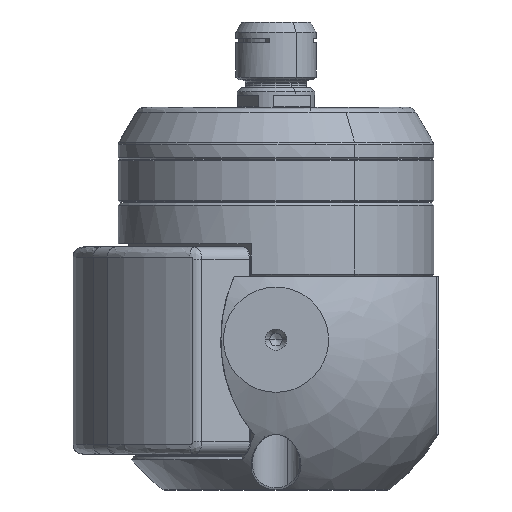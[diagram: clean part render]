
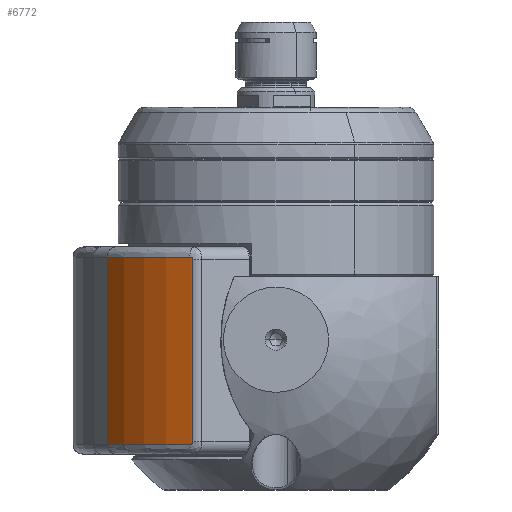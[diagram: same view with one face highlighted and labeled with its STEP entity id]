
A CAD part, front view. The second image highlights one B-rep face of the part: STEP entity #6772.
In plain terms, the highlighted cylindrical face has radius 40 mm (diameter 80 mm), a partial arc.
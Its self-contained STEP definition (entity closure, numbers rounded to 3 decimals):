
#40 = EDGE_CURVE ( 'NONE', #7316, #5445, #2606, .T. ) ;
#86 = CARTESIAN_POINT ( 'NONE',  ( -16.593, 0.572, -20.437 ) ) ;
#165 = CARTESIAN_POINT ( 'NONE',  ( -17.046, 0.773, -20.889 ) ) ;
#484 = VERTEX_POINT ( 'NONE', #3735 ) ;
#499 = CARTESIAN_POINT ( 'NONE',  ( -16.782, 0.655, 16.366 ) ) ;
#768 = DIRECTION ( 'NONE',  ( -0.5, 0.866, 0. ) ) ;
#998 = ORIENTED_EDGE ( 'NONE', *, *, #7344, .F. ) ;
#1040 = CARTESIAN_POINT ( 'NONE',  ( -33.661, 14.802, 16.5 ) ) ;
#1046 = AXIS2_PLACEMENT_3D ( 'NONE', #2505, #1267, #768 ) ;
#1081 = CARTESIAN_POINT ( 'NONE',  ( -17.116, 0.805, 16.5 ) ) ;
#1119 = CARTESIAN_POINT ( 'NONE',  ( -16.95, 0.73, 16.459 ) ) ;
#1243 = ORIENTED_EDGE ( 'NONE', *, *, #6892, .T. ) ;
#1267 = DIRECTION ( 'NONE',  ( 0., 0., 1. ) ) ;
#1412 = CIRCLE ( 'NONE', #1046, 40. ) ;
#1459 = CARTESIAN_POINT ( 'NONE',  ( -17.186, 0.837, 16.5 ) ) ;
#1491 = CARTESIAN_POINT ( 'NONE',  ( -33.661, 14.802, 18.5 ) ) ;
#1714 = CARTESIAN_POINT ( 'NONE',  ( -16.669, 0.605, 16.246 ) ) ;
#1778 = CARTESIAN_POINT ( 'NONE',  ( -16.593, 0.572, -20.4 ) ) ;
#1890 = EDGE_LOOP ( 'NONE', ( #6115, #998, #6142, #1243, #7551, #4235 ) ) ;
#2273 = CARTESIAN_POINT ( 'NONE',  ( -16.593, 0.572, 16. ) ) ;
#2505 = CARTESIAN_POINT ( 'NONE',  ( -0.52, 37.2, -20.9 ) ) ;
#2606 = LINE ( 'NONE', #1491, #5000 ) ;
#2817 = CARTESIAN_POINT ( 'NONE',  ( -16.594, 0.572, 16.038 ) ) ;
#2892 = CARTESIAN_POINT ( 'NONE',  ( -16.766, 0.648, 16.353 ) ) ;
#2917 = CARTESIAN_POINT ( 'NONE',  ( -16.631, 0.588, -20.578 ) ) ;
#2939 = FACE_OUTER_BOUND ( 'NONE', #1890, .T. ) ;
#2966 = CARTESIAN_POINT ( 'NONE',  ( -16.601, 0.575, 16.094 ) ) ;
#2987 = EDGE_CURVE ( 'NONE', #484, #3607, #4072, .T. ) ;
#3046 = VECTOR ( 'NONE', #5284, 1000. ) ;
#3111 = CARTESIAN_POINT ( 'NONE',  ( -17.186, 0.837, -20.9 ) ) ;
#3179 = AXIS2_PLACEMENT_3D ( 'NONE', #6629, #3744, #6095 ) ;
#3523 = CARTESIAN_POINT ( 'NONE',  ( -17.186, 0.837, 16.5 ) ) ;
#3607 = VERTEX_POINT ( 'NONE', #6062 ) ;
#3717 = VERTEX_POINT ( 'NONE', #1459 ) ;
#3735 = CARTESIAN_POINT ( 'NONE',  ( -16.593, 0.572, 16. ) ) ;
#3744 = DIRECTION ( 'NONE',  ( 0., 0., 1. ) ) ;
#3799 = EDGE_CURVE ( 'NONE', #3607, #6037, #7179, .T. ) ;
#3975 = DIRECTION ( 'NONE',  ( 0., 0., -1. ) ) ;
#4072 = LINE ( 'NONE', #5878, #3046 ) ;
#4100 = CARTESIAN_POINT ( 'NONE',  ( -16.643, 0.593, 16.2 ) ) ;
#4108 = CARTESIAN_POINT ( 'NONE',  ( -0.52, 37.2, 18.5 ) ) ;
#4137 = CARTESIAN_POINT ( 'NONE',  ( -16.739, 0.636, 16.328 ) ) ;
#4147 = CYLINDRICAL_SURFACE ( 'NONE', #5923, 40. ) ;
#4171 = CARTESIAN_POINT ( 'NONE',  ( -16.847, 0.684, -20.815 ) ) ;
#4235 = ORIENTED_EDGE ( 'NONE', *, *, #2987, .F. ) ;
#4361 = CARTESIAN_POINT ( 'NONE',  ( -33.661, 14.802, -20.9 ) ) ;
#4729 = CARTESIAN_POINT ( 'NONE',  ( -16.687, 0.613, -20.671 ) ) ;
#4769 = CARTESIAN_POINT ( 'NONE',  ( -16.701, 0.619, 16.289 ) ) ;
#5000 = VECTOR ( 'NONE', #3975, 1000. ) ;
#5245 = DIRECTION ( 'NONE',  ( -0.5, 0.866, 0. ) ) ;
#5247 = B_SPLINE_CURVE_WITH_KNOTS ( 'NONE', 3,
 ( #2273, #2817, #2966, #5870, #7686, #4100, #1714, #4769, #4137, #2892, #499, #7024, #6519, #7570, #1119, #7066, #1081, #3523 ),
 .UNSPECIFIED., .F., .F.,
 ( 4, 1, 2, 2, 1, 2, 2, 2, 2, 4 ),
 ( 0., 0.125, 0.188, 0.25, 0.375, 0.438, 0.5, 0.625, 0.75, 1. ),
 .UNSPECIFIED. ) ;
#5284 = DIRECTION ( 'NONE',  ( 0., 0., -1. ) ) ;
#5309 = CARTESIAN_POINT ( 'NONE',  ( -16.666, 0.604, -20.641 ) ) ;
#5346 = CARTESIAN_POINT ( 'NONE',  ( -16.761, 0.646, -20.749 ) ) ;
#5445 = VERTEX_POINT ( 'NONE', #4361 ) ;
#5870 = CARTESIAN_POINT ( 'NONE',  ( -16.619, 0.583, 16.147 ) ) ;
#5878 = CARTESIAN_POINT ( 'NONE',  ( -16.593, 0.572, 18.5 ) ) ;
#5898 = CARTESIAN_POINT ( 'NONE',  ( -16.617, 0.582, -20.544 ) ) ;
#5923 = AXIS2_PLACEMENT_3D ( 'NONE', #4108, #6488, #5245 ) ;
#5936 = CARTESIAN_POINT ( 'NONE',  ( -16.735, 0.634, -20.725 ) ) ;
#6037 = VERTEX_POINT ( 'NONE', #6364 ) ;
#6062 = CARTESIAN_POINT ( 'NONE',  ( -16.593, 0.572, -20.4 ) ) ;
#6095 = DIRECTION ( 'NONE',  ( 0.866, 0.5, 0. ) ) ;
#6115 = ORIENTED_EDGE ( 'NONE', *, *, #7218, .T. ) ;
#6142 = ORIENTED_EDGE ( 'NONE', *, *, #40, .T. ) ;
#6364 = CARTESIAN_POINT ( 'NONE',  ( -17.186, 0.837, -20.9 ) ) ;
#6475 = CARTESIAN_POINT ( 'NONE',  ( -16.598, 0.574, -20.473 ) ) ;
#6488 = DIRECTION ( 'NONE',  ( 0., 0., -1. ) ) ;
#6519 = CARTESIAN_POINT ( 'NONE',  ( -16.853, 0.687, 16.414 ) ) ;
#6542 = CIRCLE ( 'NONE', #3179, 40. ) ;
#6552 = CARTESIAN_POINT ( 'NONE',  ( -16.911, 0.713, -20.847 ) ) ;
#6629 = CARTESIAN_POINT ( 'NONE',  ( -0.52, 37.2, 16.5 ) ) ;
#6772 = ADVANCED_FACE ( 'NONE', ( #2939 ), #4147, .T. ) ;
#6892 = EDGE_CURVE ( 'NONE', #5445, #6037, #1412, .T. ) ;
#7024 = CARTESIAN_POINT ( 'NONE',  ( -16.824, 0.674, 16.396 ) ) ;
#7066 = CARTESIAN_POINT ( 'NONE',  ( -17.048, 0.775, 16.49 ) ) ;
#7179 = B_SPLINE_CURVE_WITH_KNOTS ( 'NONE', 3,
 ( #1778, #86, #6475, #5898, #2917, #5309, #4729, #5936, #5346, #4171, #6552, #165, #7400, #3111 ),
 .UNSPECIFIED., .F., .F.,
 ( 4, 2, 2, 2, 2, 2, 4 ),
 ( 0., 0.125, 0.25, 0.375, 0.5, 0.75, 1. ),
 .UNSPECIFIED. ) ;
#7218 = EDGE_CURVE ( 'NONE', #484, #3717, #5247, .T. ) ;
#7316 = VERTEX_POINT ( 'NONE', #1040 ) ;
#7344 = EDGE_CURVE ( 'NONE', #7316, #3717, #6542, .T. ) ;
#7400 = CARTESIAN_POINT ( 'NONE',  ( -17.115, 0.805, -20.9 ) ) ;
#7551 = ORIENTED_EDGE ( 'NONE', *, *, #3799, .F. ) ;
#7570 = CARTESIAN_POINT ( 'NONE',  ( -16.916, 0.715, 16.445 ) ) ;
#7686 = CARTESIAN_POINT ( 'NONE',  ( -16.634, 0.589, 16.182 ) ) ;
